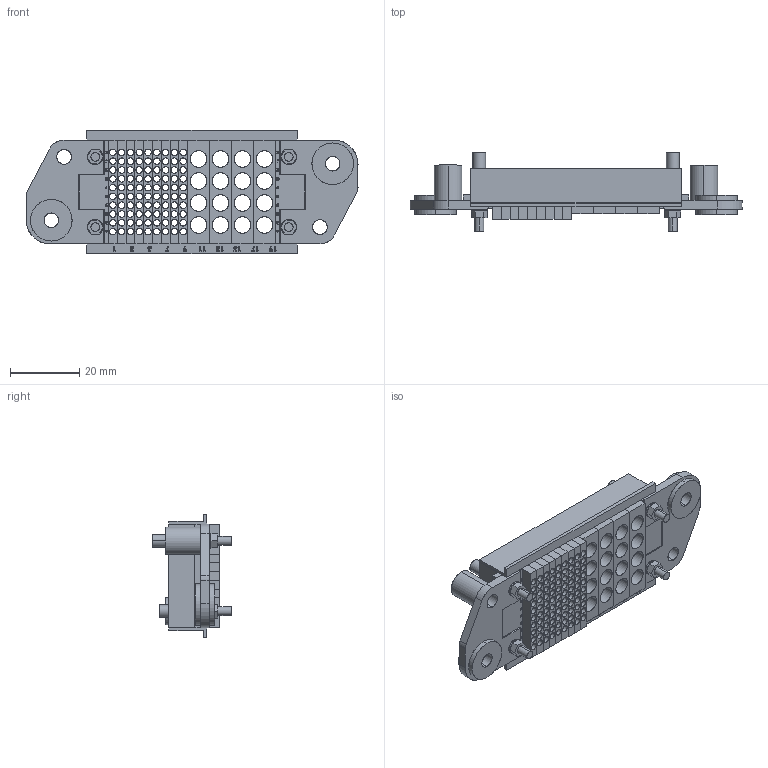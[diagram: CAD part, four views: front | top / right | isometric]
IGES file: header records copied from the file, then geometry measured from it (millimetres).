
Start section: SolidWorks IGES file using analytic representation for surfaces
Global section: file name: \\PSSILO\catalogs\HYPERTRONICS\NEH\cache\NE1ST_M02131126482895.igs; native system: SolidWorks 2017; preprocessor: SolidWorks 2017; author: partstream; date: 170213.112755; units: millimetre
Bounding box: 95.88 x 22.65 x 35.74 mm (x, y, z)
Surface area: 35925.8 mm2 (no closed solid volume)
Topology: 0 solids, 0 shells, 1343 faces, 17605 edges, 17605 vertices
Faces by surface type: bspline 1061, revolution 282
